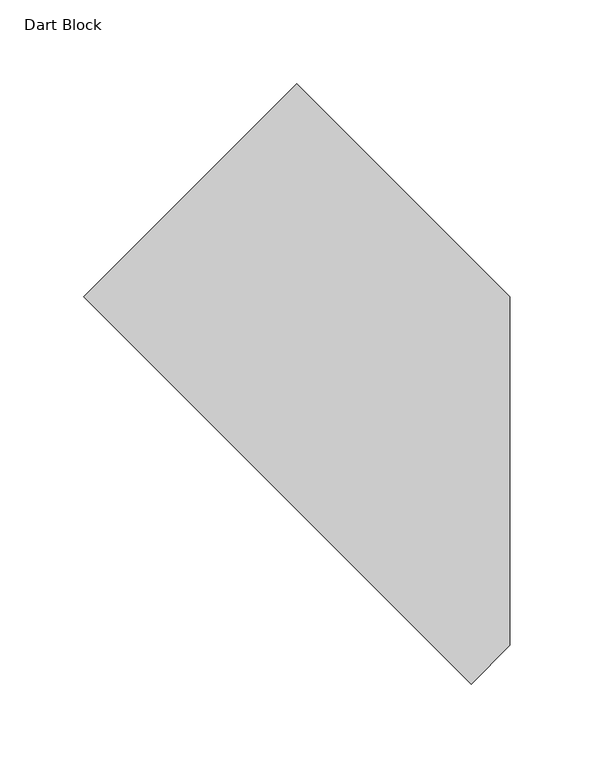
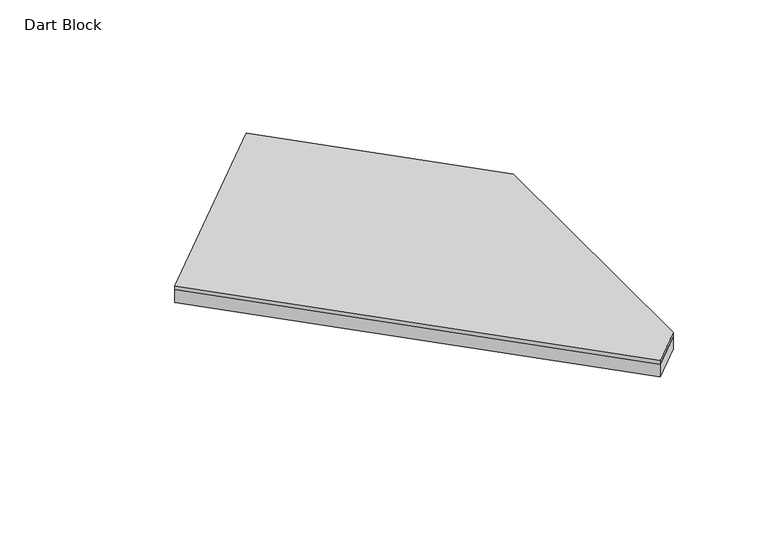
"""IFC4 building model written with IfcOpenShell, lengths in millimetres: proxy geometry, FilzFelt_Dart_Block : Dart Block."""

import ifcopenshell
import ifcopenshell.guid

model = None  # the IFC model being written
_history = None  # IfcOwnerHistory: only IFC2X3 demands one
_inside = {}  # id of a spatial element -> (the spatial element, [elements in it])
_under = {}  # id of a project, library or spatial element -> (it, [spatial elements below it])
_declared = {}  # id of a project -> (the project, [libraries it declares])
_typed = {}  # id of a type object -> (the type object, [elements of that type])
_made_of = {}  # id of a material, layer set ... -> (it, [elements and type objects made of it])


def new_model(schema):
    """Start an empty IFC model of exactly this schema.

    Asked for "IFC4X3", IfcOpenShell would pick the latest addendum, in which some entities
    have other attributes; the version numbers below select the first issue.
    IFC2X3 requires an IfcOwnerHistory on every rooted entity: one is made here for all.
    """
    global model, _history
    if schema == "IFC4X3":
        model = ifcopenshell.file(schema_version=(4, 3, 0, 0))
    else:
        model = ifcopenshell.file(schema=schema)
    _inside.clear()
    _under.clear()
    _declared.clear()
    _typed.clear()
    _made_of.clear()
    _history = None
    if model.schema == "IFC2X3":
        org = make("IfcOrganization", Name="unknown")
        user = make(
            "IfcPersonAndOrganization",
            ThePerson=make("IfcPerson", FamilyName="unknown"),
            TheOrganization=org,
        )
        app = make(
            "IfcApplication",
            ApplicationDeveloper=org,
            Version="unknown",
            ApplicationFullName="unknown",
            ApplicationIdentifier="unknown",
        )
        _history = make(
            "IfcOwnerHistory",
            OwningUser=user,
            OwningApplication=app,
            ChangeAction="ADDED",
            CreationDate=0,
        )
    return model


def make(cls, **values):
    """One entity of the class cls with the attributes given. An attribute that is None is left unset."""
    return model.create_entity(
        cls, **{name: value for name, value in values.items() if value is not None}
    )


def rooted(cls, **values):
    """An entity with a GlobalId (a new one), such as an element, a storey or a relation."""
    return make(cls, GlobalId=ifcopenshell.guid.new(), OwnerHistory=_history, **values)


def si_unit(unit_type, name, prefix=None):
    """IfcSIUnit, for example si_unit("LENGTHUNIT", "METRE", prefix="MILLI")."""
    return make("IfcSIUnit", UnitType=unit_type, Prefix=prefix, Name=name)


def assignment(units):
    """IfcUnitAssignment: the units of a project."""
    return None if units is None else make("IfcUnitAssignment", Units=units)


def point(xyz):
    """IfcCartesianPoint."""
    return None if xyz is None else make("IfcCartesianPoint", Coordinates=xyz)


def direction(xyz):
    """IfcDirection."""
    return None if xyz is None else make("IfcDirection", DirectionRatios=xyz)


def frame(location, z_axis=None, x_axis=None):
    """IfcAxis2Placement3D, a coordinate frame: its origin and axes. An axis left out is left unset."""
    return make(
        "IfcAxis2Placement3D",
        Location=point(location),
        Axis=direction(z_axis),
        RefDirection=direction(x_axis),
    )


def origin():
    """The frame at (0, 0, 0) with its axes left unset."""
    return frame((0.0, 0.0, 0.0))


def origin_with_axes():
    """The frame at (0, 0, 0) with the z axis (0, 0, 1) and the x axis (1, 0, 0) written out."""
    return frame((0.0, 0.0, 0.0), z_axis=(0.0, 0.0, 1.0), x_axis=(1.0, 0.0, 0.0))


def place(relative_to, where):
    """IfcLocalPlacement: puts the frame where relative to a parent placement (None: the world)."""
    return make(
        "IfcLocalPlacement", PlacementRelTo=relative_to, RelativePlacement=where
    )


def context(
    kind, dimensions, precision=None, world=None, true_north=None, identifier=None
):
    """IfcGeometricRepresentationContext, for example the 3D "Model" context."""
    return make(
        "IfcGeometricRepresentationContext",
        ContextIdentifier=identifier,
        ContextType=kind,
        CoordinateSpaceDimension=dimensions,
        Precision=precision,
        WorldCoordinateSystem=world,
        TrueNorth=true_north,
    )


def project(units=None, contexts=None):
    """IfcProject with its units and contexts."""
    return rooted(
        "IfcProject",
        Name="project",
        RepresentationContexts=contexts,
        UnitsInContext=assignment(units),
    )


def spatial(cls, under=None, at=None, **own):
    """A site, building, storey or space (cls), placed at a placement, below another one or the project."""
    s = rooted(cls, ObjectPlacement=at, **own)
    if under is not None:
        _under.setdefault(under.id(), (under, []))[1].append(s)
    return s


def polyline(points):
    """IfcPolyline through the points."""
    return make("IfcPolyline", Points=[point(p) for p in points])


def outline(outer, holes=None, kind="AREA"):
    """IfcArbitraryClosedProfileDef: a profile drawn as a closed curve; with holes, ...WithVoids."""
    if holes is None:
        return make("IfcArbitraryClosedProfileDef", ProfileType=kind, OuterCurve=outer)
    return make(
        "IfcArbitraryProfileDefWithVoids",
        ProfileType=kind,
        OuterCurve=outer,
        InnerCurves=holes,
    )


def extrude(swept, where, along, depth):
    """IfcExtrudedAreaSolid: the profile swept, set in the frame where, extruded along a direction by depth."""
    return make(
        "IfcExtrudedAreaSolid",
        SweptArea=swept,
        Position=where,
        ExtrudedDirection=direction(along),
        Depth=depth,
    )


def shape(context_of_items, identifier, shape_type, items):
    """IfcShapeRepresentation: the items that make up one representation, for example the "Body"."""
    return make(
        "IfcShapeRepresentation",
        ContextOfItems=context_of_items,
        RepresentationIdentifier=identifier,
        RepresentationType=shape_type,
        Items=items,
    )


def source(mapping_origin, context_of_items, identifier, shape_type, items):
    """IfcRepresentationMap: a shape defined once, which mapped items show again and again."""
    return make(
        "IfcRepresentationMap",
        MappingOrigin=mapping_origin,
        MappedRepresentation=shape(context_of_items, identifier, shape_type, items),
    )


def transform(
    local_origin,
    x_axis=None,
    y_axis=None,
    z_axis=None,
    scale=None,
    scale2=None,
    scale3=None,
    uniform=True,
):
    """IfcCartesianTransformationOperator3D, or its non-uniform kind. x_axis, y_axis, z_axis: its Axis1, 2, 3."""
    if uniform:
        return make(
            "IfcCartesianTransformationOperator3D",
            Axis1=direction(x_axis),
            Axis2=direction(y_axis),
            LocalOrigin=point(local_origin),
            Scale=scale,
            Axis3=direction(z_axis),
        )
    return make(
        "IfcCartesianTransformationOperator3DnonUniform",
        Axis1=direction(x_axis),
        Axis2=direction(y_axis),
        LocalOrigin=point(local_origin),
        Scale=scale,
        Axis3=direction(z_axis),
        Scale2=scale2,
        Scale3=scale3,
    )


def mapped(mapping_source, mapping_target):
    """IfcMappedItem: shows the shape of a source again, moved by a transform."""
    return make(
        "IfcMappedItem", MappingSource=mapping_source, MappingTarget=mapping_target
    )


def made_of(thing, what):
    """Note that an element or type object is made of a material, layer set ...; save() writes the relation."""
    if what is not None:
        _made_of.setdefault(what.id(), (what, []))[1].append(thing)
    return thing


def element(
    cls,
    number,
    at=None,
    inside=None,
    cuts=None,
    type_object=None,
    material=None,
    context=None,
    identifier="Body",
    shape_type=None,
    held_by="IfcProductDefinitionShape",
    body=None,
    shapes=None,
    **own,
):
    """One element of the class cls, such as IfcWall. Its Tag is "e" and its number.

    at: its placement. inside: the storey or other place that contains it. cuts: it is an
    opening in that element (IfcRelVoidsElement). A single representation is given by context,
    identifier, shape_type and body (its items); several are given by shapes. held_by: the class
    of the entity that holds the representations. save() writes the other relations.
    """
    e = rooted(cls, Tag="e%d" % number, ObjectPlacement=at, **own)
    if body is not None:
        shapes = [shape(context, identifier, shape_type, body)]
    if shapes is not None:
        e.Representation = make(held_by, Representations=shapes)
    if inside is not None:
        _inside.setdefault(inside.id(), (inside, []))[1].append(e)
    if cuts is not None:
        rooted(
            "IfcRelVoidsElement", RelatingBuildingElement=cuts, RelatedOpeningElement=e
        )
    if type_object is not None:
        _typed.setdefault(type_object.id(), (type_object, []))[1].append(e)
    return made_of(e, material)


def aggregate(whole, parts):
    """IfcRelAggregates: a whole, such as a stair, and the parts it consists of."""
    return rooted("IfcRelAggregates", RelatingObject=whole, RelatedObjects=parts)


def save(model, path):
    """Write the relations noted so far, then the file.

    IfcRelAggregates (storeys below a building ...), IfcRelContainedInSpatialStructure (elements
    in a storey), IfcRelDefinesByType, IfcRelAssociatesMaterial and IfcRelDeclares: one each for
    every whole, place, type object, material and project.
    """
    for whole, parts in _under.values():
        aggregate(whole, parts)
    for where, things in _inside.values():
        rooted(
            "IfcRelContainedInSpatialStructure",
            RelatedElements=things,
            RelatingStructure=where,
        )
    for kind, things in _typed.values():
        rooted("IfcRelDefinesByType", RelatedObjects=things, RelatingType=kind)
    for what, things in _made_of.values():
        rooted("IfcRelAssociatesMaterial", RelatedObjects=things, RelatingMaterial=what)
    for by, libraries in _declared.values():
        rooted("IfcRelDeclares", RelatingContext=by, RelatedDefinitions=libraries)
    model.write(path)


def dart_block_3be2393e(model_context):
    return source(origin(), model_context, "Body", "SweptSolid", [
        extrude(outline(polyline([(0.0, 190.5), (127.0, 63.5), (127.0, -144.1319134), (103.8159567, -167.3159567), (-127.0, 63.5), (0.0, 190.5)])), frame((0.0, 0.0, 10.0210937), z_axis=(0.0, 0.0, 1.0), x_axis=(1.0, 0.0, 0.0)), (0.0, 0.0, 1.0), 2.9765625),
        extrude(outline(polyline([(-127.0, 63.5), (0.0, 190.5), (127.0, 63.5), (127.0, -144.1319134), (103.8159567, -167.3159567), (-127.0, 63.5)])), origin_with_axes(), (0.0, 0.0, 1.0), 10.0210938),
    ])


if __name__ == "__main__":
    model = new_model("IFC4")
    model_context = context("Model", 3, world=origin())
    ifc_project = project(units=[si_unit("LENGTHUNIT", "METRE", prefix="MILLI")], contexts=[model_context])
    site = spatial("IfcSite", under=ifc_project)
    building = spatial("IfcBuilding", under=site)
    placement = place(None, origin())
    dart_block_shape = dart_block_3be2393e(model_context)
    element("IfcBuildingElementProxy", 1, Name="FilzFelt_Dart_Block : Dart Block", ObjectType="FilzFelt_Dart_Block : Dart Block", at=placement, inside=building, context=model_context, shape_type="MappedRepresentation", body=[
        mapped(dart_block_shape, transform((0.0, 0.0, 0.0), x_axis=(1.0, 0.0, 0.0), y_axis=(0.0, 1.0, 0.0), z_axis=(0.0, 0.0, 1.0))),
    ])
    save(model, "model.ifc")
